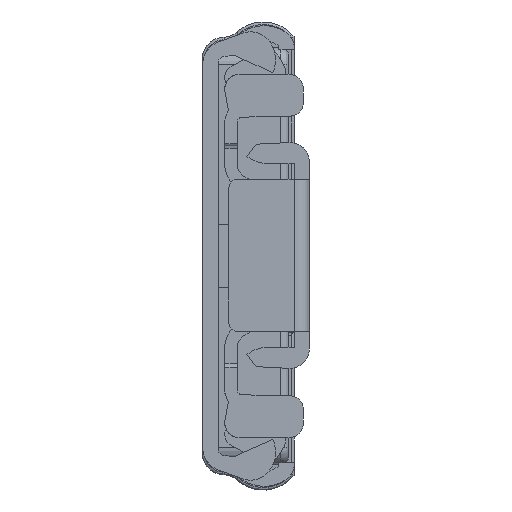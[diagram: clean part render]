
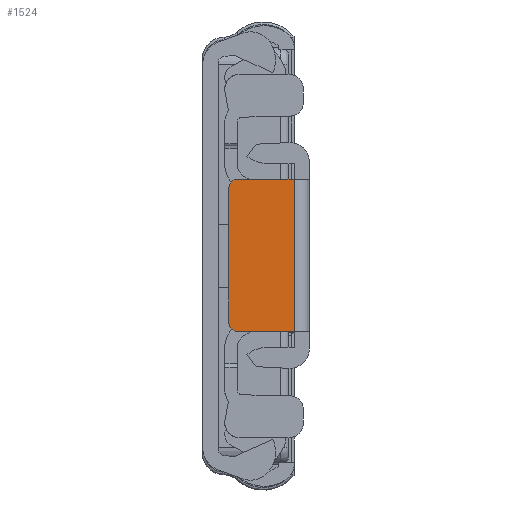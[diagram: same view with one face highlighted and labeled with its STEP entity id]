
A CAD part, front view. The second image highlights one B-rep face of the part: STEP entity #1524.
In plain terms, the highlighted planar face has unit normal (0, -1, 0).
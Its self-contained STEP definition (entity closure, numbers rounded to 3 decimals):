
#1524 = ADVANCED_FACE( '', ( #3384 ), #3385, .T. );
#3384 = FACE_OUTER_BOUND( '', #5715, .T. );
#3385 = PLANE( '', #5716 );
#5715 = EDGE_LOOP( '', ( #9929, #9930, #9931, #9932, #9933, #9934 ) );
#5716 = AXIS2_PLACEMENT_3D( '', #9935, #9936, #9937 );
#9929 = ORIENTED_EDGE( '', *, *, #14852, .T. );
#9930 = ORIENTED_EDGE( '', *, *, #13891, .T. );
#9931 = ORIENTED_EDGE( '', *, *, #14381, .T. );
#9932 = ORIENTED_EDGE( '', *, *, #15280, .T. );
#9933 = ORIENTED_EDGE( '', *, *, #15281, .T. );
#9934 = ORIENTED_EDGE( '', *, *, #14648, .T. );
#9935 = CARTESIAN_POINT( '', ( -9., -575.302, -2.366 ) );
#9936 = DIRECTION( '', ( 0., -1., 0. ) );
#9937 = DIRECTION( '', ( 0., 0., -1. ) );
#13891 = EDGE_CURVE( '', #16757, #16758, #16759, .T. );
#14381 = EDGE_CURVE( '', #16758, #17620, #17621, .T. );
#14648 = EDGE_CURVE( '', #18051, #18052, #18053, .T. );
#14852 = EDGE_CURVE( '', #18052, #16757, #18370, .T. );
#15280 = EDGE_CURVE( '', #17620, #18987, #18988, .T. );
#15281 = EDGE_CURVE( '', #18987, #18051, #18989, .T. );
#16757 = VERTEX_POINT( '', #20865 );
#16758 = VERTEX_POINT( '', #20866 );
#16759 = CIRCLE( '', #20867, 1. );
#17620 = VERTEX_POINT( '', #22045 );
#17621 = LINE( '', #22046, #22047 );
#18051 = VERTEX_POINT( '', #22648 );
#18052 = VERTEX_POINT( '', #22649 );
#18053 = CIRCLE( '', #22650, 1. );
#18370 = LINE( '', #23147, #23148 );
#18987 = VERTEX_POINT( '', #24034 );
#18988 = LINE( '', #24035, #24036 );
#18989 = LINE( '', #24037, #24038 );
#20865 = CARTESIAN_POINT( '', ( -8., -575.302, 5.8 ) );
#20866 = CARTESIAN_POINT( '', ( -9., -575.302, 4.8 ) );
#20867 = AXIS2_PLACEMENT_3D( '', #26076, #26077, #26078 );
#22045 = CARTESIAN_POINT( '', ( -9., -575.302, -1.898 ) );
#22046 = CARTESIAN_POINT( '', ( -9., -575.302, -2.366 ) );
#22047 = VECTOR( '', #26789, 1000. );
#22648 = CARTESIAN_POINT( '', ( 9., -575.302, 4.8 ) );
#22649 = CARTESIAN_POINT( '', ( 8., -575.302, 5.8 ) );
#22650 = AXIS2_PLACEMENT_3D( '', #27136, #27137, #27138 );
#23147 = CARTESIAN_POINT( '', ( 9., -575.302, 5.8 ) );
#23148 = VECTOR( '', #27362, 1000. );
#24034 = CARTESIAN_POINT( '', ( 9., -575.302, -1.898 ) );
#24035 = CARTESIAN_POINT( '', ( -9., -575.302, -1.898 ) );
#24036 = VECTOR( '', #27881, 1000. );
#24037 = CARTESIAN_POINT( '', ( 9., -575.302, -2.366 ) );
#24038 = VECTOR( '', #27882, 1000. );
#26076 = CARTESIAN_POINT( '', ( -8., -575.302, 4.8 ) );
#26077 = DIRECTION( '', ( 0., -1., 0. ) );
#26078 = DIRECTION( '', ( 0., 0., -1. ) );
#26789 = DIRECTION( '', ( 0., 0., -1. ) );
#27136 = CARTESIAN_POINT( '', ( 8., -575.302, 4.8 ) );
#27137 = DIRECTION( '', ( 0., -1., 0. ) );
#27138 = DIRECTION( '', ( 0., 0., -1. ) );
#27362 = DIRECTION( '', ( -1., 0., 0. ) );
#27881 = DIRECTION( '', ( 1., 0., 0. ) );
#27882 = DIRECTION( '', ( 0., 0., 1. ) );
